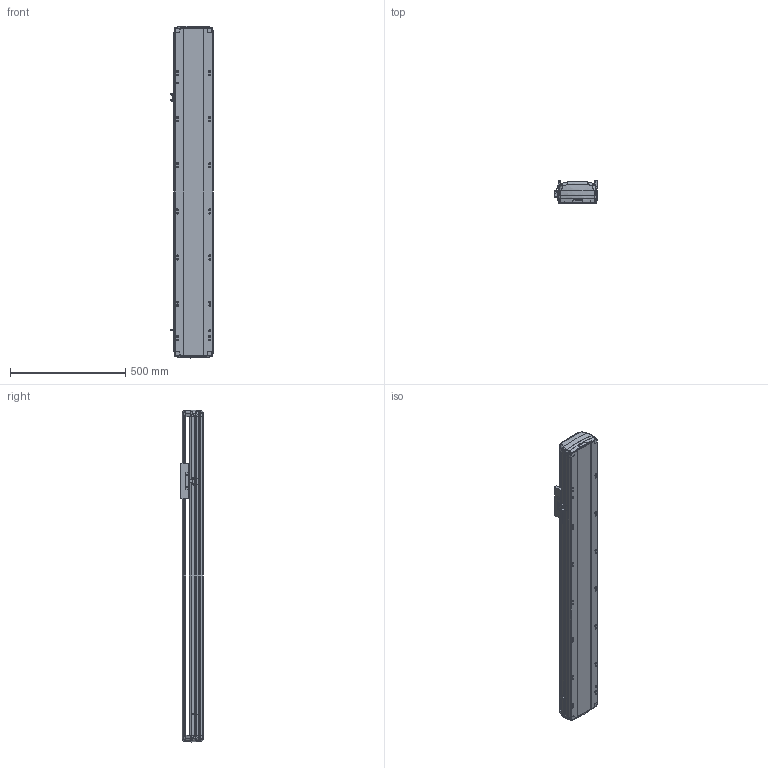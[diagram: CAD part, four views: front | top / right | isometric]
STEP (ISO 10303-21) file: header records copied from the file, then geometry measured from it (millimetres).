
FILE_DESCRIPTION (( 'STEP AP214' ), '1' );
FILE_NAME ('RTH17-XX-1000-B-M40B-C4.STEP', '2025-10-24T09:18:38', ( '' ), ( '' ), 'SwSTEP 2.0', 'SolidWorks 2018', '' );
FILE_SCHEMA (( 'AUTOMOTIVE_DESIGN' ));
Length unit declared in the file: millimetre
Products named in the file (7): N_RTH17-M-011B底座^RTH17-XX-XX-B-M40B-C4（方程式）; N_RTH-L-012 感应片(外置)^RTH17-XX-XX-B-M40B-C4（方程式）; N_OMRON EE-SX672 換覜ん^RTH17-XX-XX-B-M40B-C4ㄗ源最宒ㄘ; N_RTH17-GY-001P^RTH17-XX-XX-B-M40B-C4（方程式）; N_RTH17-M-007B上盖^RTH17-XX-XX-B-M40B-C4（方程式）; RTH17-XX-1000-B-M40B-C4; N_RTH17-E-004丝杆螺母连接座^RTH17-XX-XX-B-M40B-C4（方程式）
Assembly tree (9 placements, depth 2):
  RTH17-XX-1000-B-M40B-C4
    N_RTH17-M-011B底座^RTH17-XX-XX-B-M40B-C4（方程式）
    N_RTH17-M-007B上盖^RTH17-XX-XX-B-M40B-C4（方程式）
    N_OMRON EE-SX672 換覜ん^RTH17-XX-XX-B-M40B-C4ㄗ源最宒ㄘ  x3
    N_RTH-L-012 感应片(外置)^RTH17-XX-XX-B-M40B-C4（方程式）
    N_RTH17-E-004丝杆螺母连接座^RTH17-XX-XX-B-M40B-C4（方程式）
    N_RTH17-GY-001P^RTH17-XX-XX-B-M40B-C4（方程式）  x2
Bounding box: 183.5 x 97 x 1439.88 mm (x, y, z)
Volume: 10471149.2 mm3; surface area: 1428253.3 mm2
Topology: 7 solids, 11 shells, 1752 faces, 4934 edges, 3206 vertices
Faces by surface type: plane 813, cylinder 473, bspline 420, cone 28, torus 18
Entity records: 41814 total; most frequent: CARTESIAN_POINT 17297, ORIENTED_EDGE 5372, DIRECTION 4246, EDGE_CURVE 2690, VERTEX_POINT 1760, LINE 1454, VECTOR 1454, AXIS2_PLACEMENT_3D 1396
